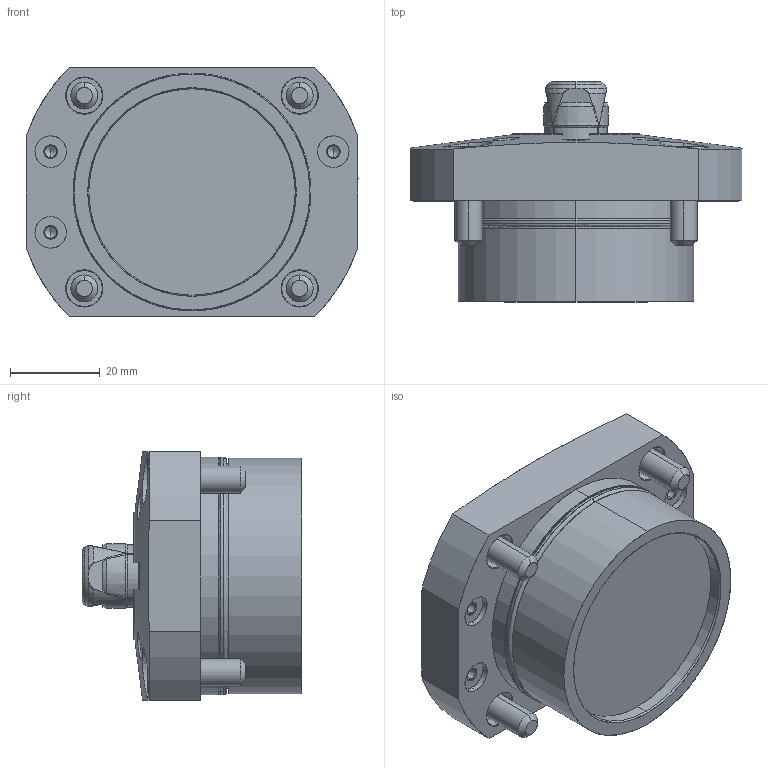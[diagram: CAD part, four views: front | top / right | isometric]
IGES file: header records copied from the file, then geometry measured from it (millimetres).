
Start section: SolidWorks IGES file using analytic representation for surfaces
Global section: file name: L:\電子カタログ-3Ｄ\SFH\ｱｾﾝﾌﾞﾘ\SFH3150_N.IGS; native system: SolidWorks 2010; preprocessor: SolidWorks 2010; author: D214; date: 101104.082410; units: millimetre
Bounding box: 74 x 49 x 55.5 mm (x, y, z)
Surface area: 29775.1 mm2 (no closed solid volume)
Topology: 0 solids, 0 shells, 556 faces, 7175 edges, 7147 vertices
Faces by surface type: revolution 314, bspline 242
